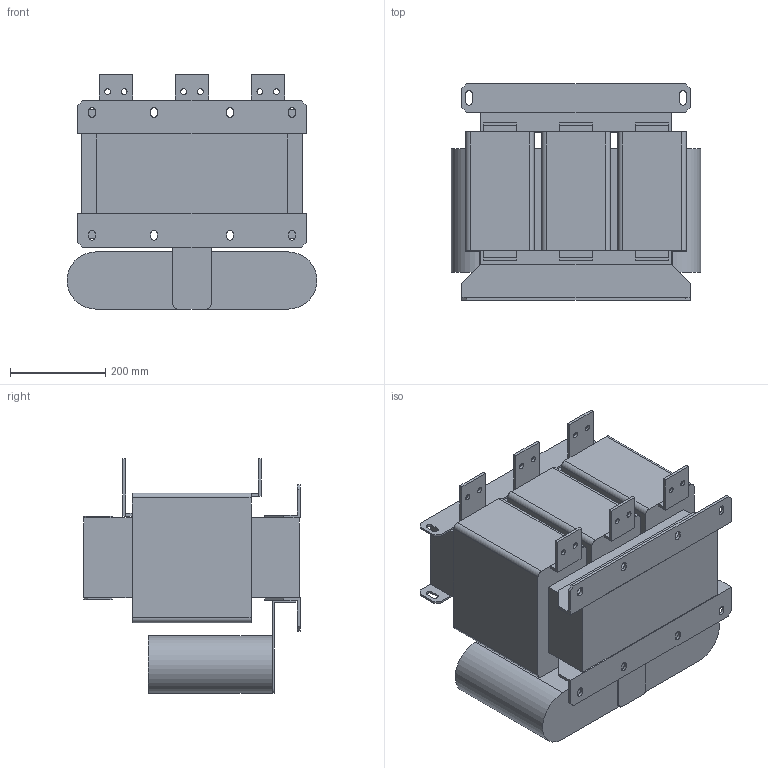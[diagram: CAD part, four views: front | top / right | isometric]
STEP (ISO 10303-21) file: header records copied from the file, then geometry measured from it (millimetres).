
FILE_DESCRIPTION(/* description */ (''),/* implementation_level */ '2;1');
FILE_NAME(/* name */ 'Sin-T4-750.stp',/* time_stamp */ '2025-03-10T18:31:01+04:00',/* author */ ('Лео'),/* organization */ (''),/* preprocessor_version */ 'ST-DEVELOPER v19.2',/* originating_system */ 'Autodesk Inventor 2024',/* authorisation */ '');
FILE_SCHEMA (('AUTOMOTIVE_DESIGN { 1 0 10303 214 3 1 1 }'));
Length unit declared in the file: millimetre
Products named in the file (1): Sin-T4-004
Bounding box: 525 x 455 x 492 mm (x, y, z)
Volume: 59874395.8 mm3; surface area: 2321475.6 mm2
Topology: 23 solids, 23 shells, 236 faces, 570 edges, 380 vertices
Faces by surface type: plane 182, cylinder 54
Full cylindrical faces by diameter (mm): 12 x12
Entity records: 6959 total; most frequent: CARTESIAN_POINT 1187, DIRECTION 1152, ORIENTED_EDGE 1140, EDGE_CURVE 570, LINE 462, VECTOR 462, VERTEX_POINT 380, AXIS2_PLACEMENT_3D 345
